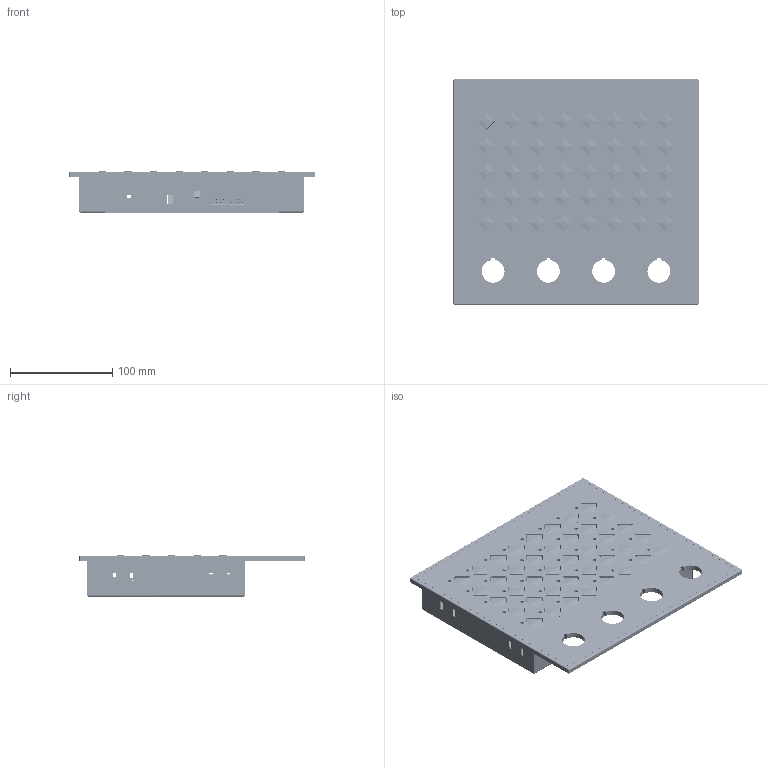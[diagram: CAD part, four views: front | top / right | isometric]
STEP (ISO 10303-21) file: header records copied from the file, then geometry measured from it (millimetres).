
FILE_DESCRIPTION (( 'STEP AP214' ), '1' );
FILE_NAME ('TE401 support.STEP', '2016-05-31T10:48:57', ( 'SIGMATEK GmbH & Co KG' ), ( 'SIGMATEK GmbH & Co KG' ), 'SwSTEP 2.0', 'SolidWorks 2015', '' );
FILE_SCHEMA (( 'AUTOMOTIVE_DESIGN' ));
Length unit declared in the file: millimetre
Products named in the file (14): 61501_110505; 105500_20120222 support; 7297771011_RF 15 Taste; 105500_20120222; Front TE support; TE401 support; Folie; Gehaeuse TE supoort; Ausnehmung; Gehaeuse; Steckerblech; 61501_110505 support; 7297771153_DIP-switch_BD08AV2; 4080225148 8pol. Stiftleiste 2reihig 1807480000
Assembly tree (53 placements, depth 3):
  TE401 support
    Front TE support
    105500_20120222 support
      105500_20120222
      7297771011_RF 15 Taste  x40
    61501_110505 support
      61501_110505
      4080225148 8pol. Stiftleiste 2reihig 1807480000  x2
      7297771153_DIP-switch_BD08AV2
    Steckerblech
    Gehaeuse TE supoort
      Gehaeuse
      Ausnehmung
    Folie
Bounding box: 240 x 220 x 40.17 mm (x, y, z)
Volume: 350879 mm3; surface area: 455338.9 mm2
Topology: 50 solids, 50 shells, 6206 faces, 16430 edges, 10755 vertices
Faces by surface type: plane 3606, cylinder 2296, cone 240, bspline 52, torus 8, sphere 4
Entity records: 81150 total; most frequent: CARTESIAN_POINT 14019, DIRECTION 13252, ORIENTED_EDGE 12902, EDGE_CURVE 6451, AXIS2_PLACEMENT_3D 4630, VERTEX_POINT 4243, VECTOR 3992, LINE 3992
